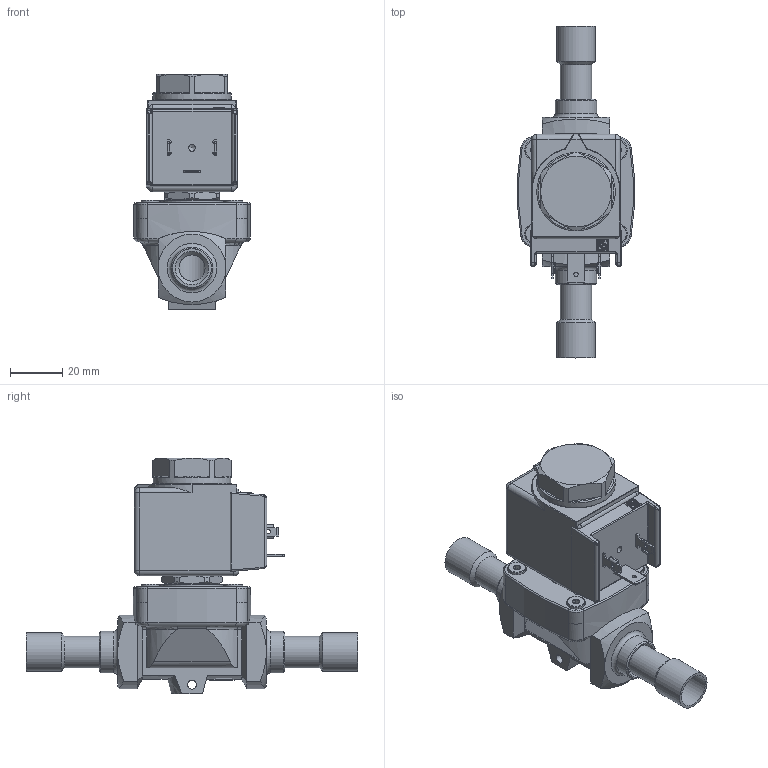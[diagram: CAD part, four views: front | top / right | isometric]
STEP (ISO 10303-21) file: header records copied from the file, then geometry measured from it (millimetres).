
FILE_DESCRIPTION(/* description */ (''),/* implementation_level */ '2;1');
FILE_NAME(/* name */ '1078_4A6',/* time_stamp */ '2009-04-03T12:00:58+02:00',/* author */ (''),/* organization */ (''),/* preprocessor_version */ 'ST-DEVELOPER v9',/* originating_system */ 'UGS - NX 4.0',/* authorisation */ '');
FILE_SCHEMA (('AUTOMOTIVE_DESIGN { 1 0 10303 214 1 1 1 1 }'));
Length unit declared in the file: millimetre
Products named in the file (1): MMan89EBirm3
Bounding box: 44.69 x 127 x 90.2 mm (x, y, z)
Volume: 106802.8 mm3; surface area: 47117.3 mm2
Topology: 14 solids, 14 shells, 825 faces, 1965 edges, 1197 vertices
Faces by surface type: plane 287, cylinder 265, torus 115, cone 107, sphere 33, bspline 18
Full cylindrical faces by diameter (mm): 1.65 x3, 1.7 x1, 2.594 x1, 2.8 x1, 2.9 x1, 3.4 x5, 3.5 x1, 4 x4, 4.8 x4, 5 x1, 6 x2, 7 x4, 7.4 x4, 8 x3, 9.5 x1, 10 x5, 10.05 x2, 10.55 x1, 10.7 x1, 10.85 x2, 10.95 x1, 11.35 x2, 11.5 x1, 11.58 x1, 11.6 x1, 11.8 x1, 12 x3, 12.5 x1, 12.8 x2, 13.2 x1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
Entity records: 26545 total; most frequent: CARTESIAN_POINT 6431, DIRECTION 3861, ORIENTED_EDGE 3396, EDGE_CURVE 1698, AXIS2_PLACEMENT_3D 1594, VERTEX_POINT 1139, EDGE_LOOP 1086, ADVANCED_FACE 825
